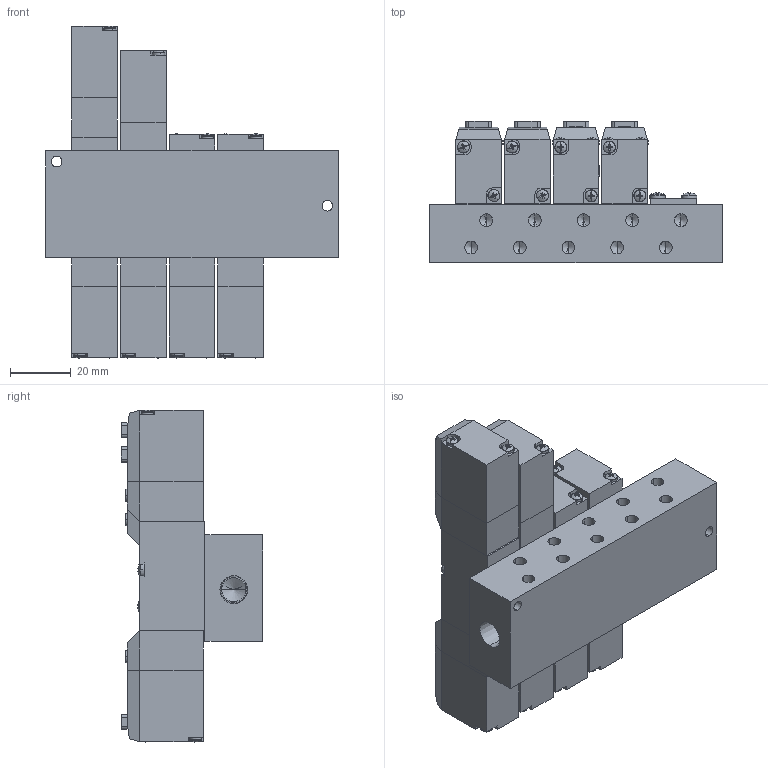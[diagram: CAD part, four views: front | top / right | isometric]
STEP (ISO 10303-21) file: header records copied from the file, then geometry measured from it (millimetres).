
FILE_DESCRIPTION (( 'STEP AP203' ), '1' );
FILE_NAME ('MFS#-PI5-M5-L.STEP', '2016-02-04T03:33:55', ( 'Sam Lin' ), ( '' ), 'SwSTEP 2.0', 'SolidWorks 2013', '' );
FILE_SCHEMA (( 'CONFIG_CONTROL_DESIGN' ));
Length unit declared in the file: metre
Products named in the file (13): MFS#-PD5-M5; PC5-2; PI5-1; ISO 7045 - M2 x 10; PI5-2; PC5-5; PI5-3; PC-MARK; MFS#-PI5-M5-L; PC5-6; PC5-4; MFS-02; ISO 7045 - M2.5 x 25
Assembly tree (56 placements, depth 2):
  MFS#-PI5-M5-L
    MFS-02
    ISO 7045 - M2.5 x 25  x10
    MFS#-PD5-M5
    PC5-2  x2
    ISO 7045 - M2 x 10  x16
    PC5-5  x6
    PC-MARK  x4
    PC5-6  x6
    PC5-4  x6
    PI5-1
    PI5-2  x2
    PI5-3
Bounding box: 96 x 46.5 x 109.14 mm (x, y, z)
Volume: 182737.3 mm3; surface area: 64503.7 mm2
Topology: 80 solids, 80 shells, 2039 faces, 5002 edges, 3097 vertices
Faces by surface type: plane 1139, cylinder 400, cone 312, bspline 188
Entity records: 15115 total; most frequent: CARTESIAN_POINT 2714, DIRECTION 2112, ORIENTED_EDGE 1972, EDGE_CURVE 986, AXIS2_PLACEMENT_3D 766, VERTEX_POINT 638, VECTOR 580, LINE 580
